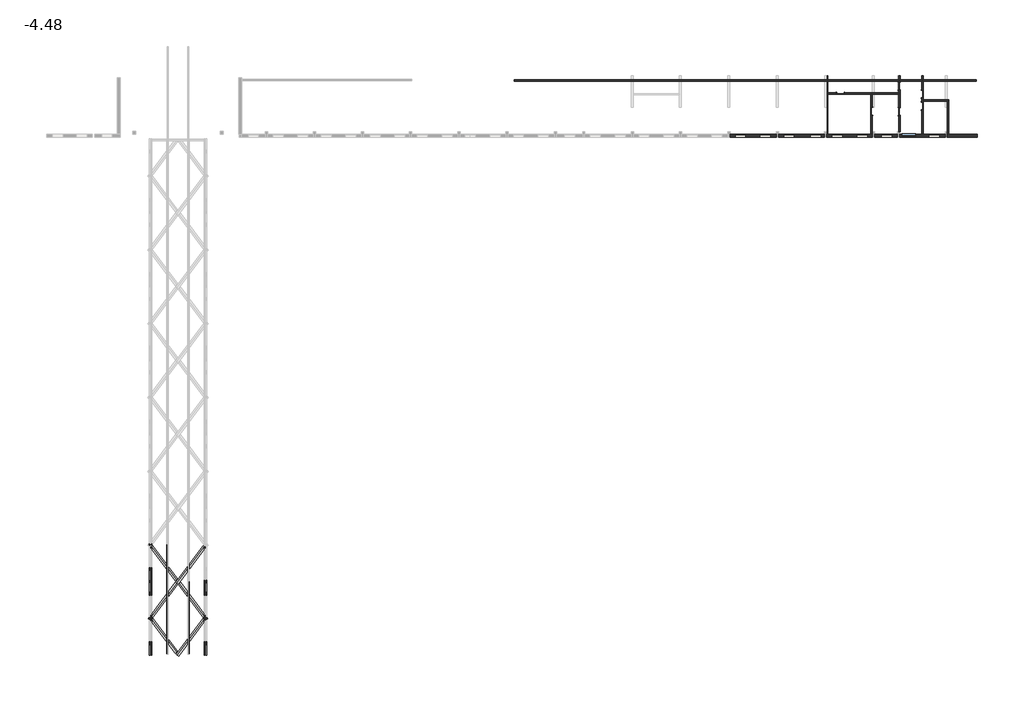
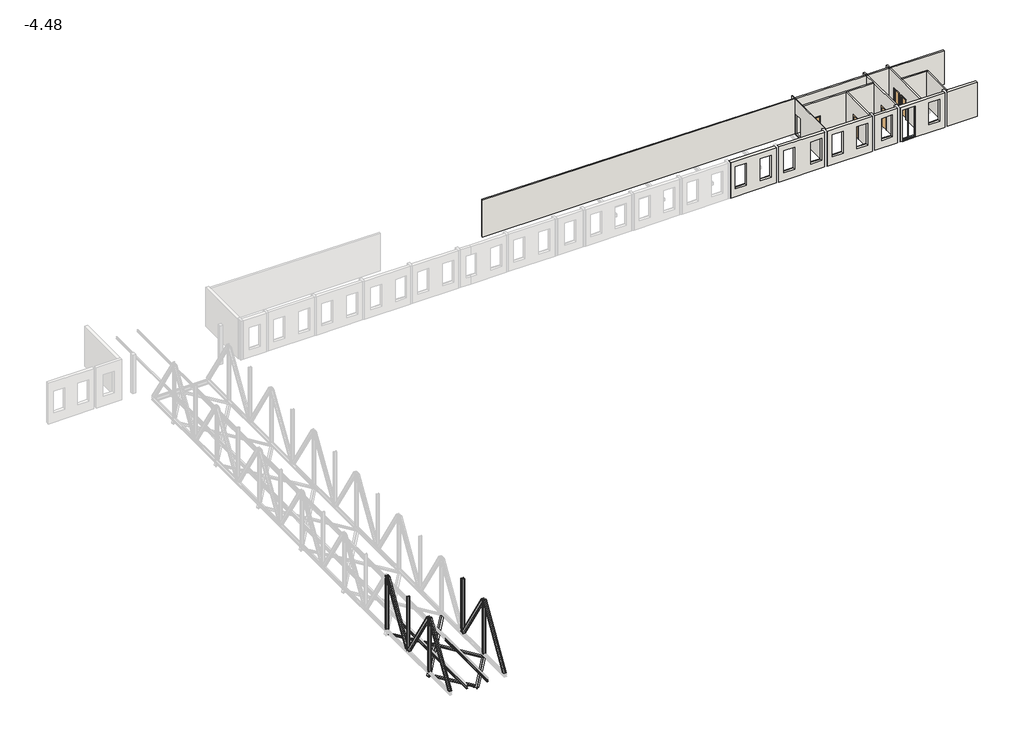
# One storey, part 2 of 4: 21 beams, 14 walls, 6 doors, 1 window.
"""IFC4 building model written with IfcOpenShell, lengths in millimetres."""

from ifc_helpers import new_model, si_unit, frame, origin, place, context, project, spatial, polyline, outline, extrude, faceted_brep, transform, mapped, element, save
from components import beam_890411bb, beam_e918075c, beam_3d815347, beam_cf659598, beam_69747abd, beam_eb555228, beam_2c250x37_7c4ae191, beam_2c250x37_2629953b, beam_2c250x37_f4fb58e9, beam_2c250x37_d0_5cd3afa0, beam_2c250x37_d0_b1fd0093, beam_2c250x37_d0_898f56b5, door_8eef53e9, door_f7163fd2, finestra_doppia_140_x_330_cm_8a0baf34

model = new_model("IFC4")

# Units and contexts
model_context = context("Model", 3, world=origin())
ifc_project = project(units=[si_unit("LENGTHUNIT", "METRE", prefix="MILLI")], contexts=[model_context])

# Site, building, storey
site = spatial("IfcSite", under=ifc_project)
building = spatial("IfcBuilding", under=site)
storey = spatial("IfcBuildingStorey", under=building, Name="-4.48", Elevation=-4480.0)

# Beams
placement = place(None, origin())
beam_shape = beam_890411bb(model_context)
element("IfcBeam", 1, ObjectType="Profilati doppi a L : DCED150x12", at=placement, inside=storey, context=model_context, shape_type="MappedRepresentation", body=[
    mapped(beam_shape, transform((6658.1828245, -26272.78495, -5576.4), x_axis=(-0.6018150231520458, 0.7986355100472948, 0.0), y_axis=(-0.7986355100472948, -0.6018150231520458, 0.0), z_axis=(0.0, 0.0, 1.0))),
])
beam_2_shape = beam_e918075c(model_context)
element("IfcBeam", 2, ObjectType="Profilati doppi a L : DCED150x12", at=placement, inside=storey, context=model_context, shape_type="MappedRepresentation", body=[
    mapped(beam_2_shape, transform((9426.531931, -26272.78495, -5576.4), x_axis=(0.6018150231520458, 0.7986355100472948, 0.0), y_axis=(-0.7986355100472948, 0.6018150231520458, 0.0), z_axis=(0.0, 0.0, 1.0))),
])
beam_3_shape = beam_3d815347(model_context)
element("IfcBeam", 3, ObjectType="Profilati doppi a L : DCED150x12", at=placement, inside=storey, context=model_context, shape_type="MappedRepresentation", body=[
    mapped(beam_3_shape, transform((6661.2738573, -22628.7990122, -5576.4), x_axis=(-0.6018150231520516, -0.7986355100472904, 0.0), y_axis=(0.7986355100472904, -0.6018150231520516, 0.0), z_axis=(0.0, 0.0, 1.0))),
])
beam_4_shape = beam_cf659598(model_context)
element("IfcBeam", 4, ObjectType="Profilati doppi a L : DCED150x12", at=placement, inside=storey, context=model_context, shape_type="MappedRepresentation", body=[
    mapped(beam_4_shape, transform((9429.6229638, -22628.7990122, -5576.4), x_axis=(0.6018150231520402, -0.7986355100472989, 0.0), y_axis=(0.7986355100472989, 0.6018150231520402, 0.0), z_axis=(0.0, 0.0, 1.0))),
])
beam_5_shape = beam_69747abd(model_context)
element("IfcBeam", 5, ObjectType="Profilati doppi a L : DCED150x12", at=placement, inside=storey, context=model_context, shape_type="MappedRepresentation", body=[
    mapped(beam_5_shape, transform((6661.2738573, -18981.9228055, -5576.4), x_axis=(-0.6018150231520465, 0.7986355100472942, 0.0), y_axis=(-0.7986355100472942, -0.6018150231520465, 0.0), z_axis=(0.0, 0.0, 1.0))),
])
beam_6_shape = beam_eb555228(model_context)
element("IfcBeam", 6, ObjectType="Profilati doppi a L : DCED150x12", at=placement, inside=storey, context=model_context, shape_type="MappedRepresentation", body=[
    mapped(beam_6_shape, transform((9429.6229638, -18981.9228055, -5576.4), x_axis=(0.6018150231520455, 0.7986355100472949, 0.0), y_axis=(-0.7986355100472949, 0.6018150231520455, 0.0), z_axis=(0.0, 0.0, 1.0))),
])
beam_2c250x37_shape = beam_2c250x37_7c4ae191(model_context)
element("IfcBeam", 7, ObjectType="Profilato a doppia C : 2C250X37", at=placement, inside=storey, context=model_context, shape_type="MappedRepresentation", body=[
    mapped(beam_2c250x37_shape, transform((10792.3573777, -20805.567008, -2273.1164855), x_axis=(0.0, 0.0, 1.0), y_axis=(0.0, 1.0, 0.0), z_axis=(-1.0, 0.0, 0.0))),
])
beam_2c250x37_2_shape = beam_2c250x37_2629953b(model_context)
element("IfcBeam", 8, ObjectType="Profilato a doppia C : 2C250X37", at=placement, inside=storey, context=model_context, shape_type="MappedRepresentation", body=[
    mapped(beam_2c250x37_2_shape, transform((5292.3573777, -18948.4241508, -2273.1164855), x_axis=(0.0, -0.5263546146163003, -0.8502651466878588), y_axis=(-1.0, 0.0, 0.0), z_axis=(0.0, 0.8502651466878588, -0.5263546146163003))),
])
element("IfcBeam", 9, ObjectType="Profilato a doppia C : 2C250X37", at=placement, inside=storey, context=model_context, shape_type="MappedRepresentation", body=[
    mapped(beam_2c250x37_2_shape, transform((5292.3573777, -22662.7098651, -2273.1164855), x_axis=(0.0, -0.5263546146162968, 0.8502651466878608), y_axis=(-1.0, 0.0, 0.0), z_axis=(0.0, -0.8502651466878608, -0.5263546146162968))),
])
element("IfcBeam", 10, ObjectType="Profilato a doppia C : 2C250X37", at=placement, inside=storey, context=model_context, shape_type="MappedRepresentation", body=[
    mapped(beam_2c250x37_2_shape, transform((10792.3573777, -22662.7098651, -2273.1164855), x_axis=(0.0, -0.5263546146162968, 0.8502651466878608), y_axis=(-1.0, 0.0, 0.0), z_axis=(0.0, -0.8502651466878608, -0.5263546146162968))),
])
beam_2c250x37_3_shape = beam_2c250x37_f4fb58e9(model_context)
element("IfcBeam", 11, ObjectType="Profilato a doppia C : 2C250X37", at=placement, inside=storey, context=model_context, shape_type="MappedRepresentation", body=[
    mapped(beam_2c250x37_3_shape, transform((5292.3573777, -26376.9955794, -2273.1164855), x_axis=(0.0, -0.5263546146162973, -0.8502651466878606), y_axis=(-1.0, 0.0, 0.0), z_axis=(0.0, 0.8502651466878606, -0.5263546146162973))),
])
element("IfcBeam", 12, ObjectType="Profilato a doppia C : 2C250X37", at=placement, inside=storey, context=model_context, shape_type="MappedRepresentation", body=[
    mapped(beam_2c250x37_3_shape, transform((10792.3573777, -26376.9955794, -2273.1164855), x_axis=(0.0, -0.5263546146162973, -0.8502651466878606), y_axis=(-1.0, 0.0, 0.0), z_axis=(0.0, 0.8502651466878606, -0.5263546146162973))),
])
beam_2c250x37_d0_shape = beam_2c250x37_d0_5cd3afa0(model_context)
element("IfcBeam", 13, ObjectType="Profilato a doppia C : 2C250X37 d0", at=placement, inside=storey, context=model_context, shape_type="MappedRepresentation", body=[
    mapped(beam_2c250x37_d0_shape, transform((5292.3573777, -17091.2812937, -2273.1164855), x_axis=(0.0, 0.0, 1.0), y_axis=(0.0, 1.0, 0.0), z_axis=(-1.0, 0.0, 0.0))),
])
element("IfcBeam", 14, ObjectType="Profilato a doppia C : 2C250X37 d0", at=placement, inside=storey, context=model_context, shape_type="MappedRepresentation", body=[
    mapped(beam_2c250x37_d0_shape, transform((5292.3573777, -20805.567008, -2273.1164855), x_axis=(0.0, 0.0, 1.0), y_axis=(0.0, 1.0, 0.0), z_axis=(-1.0, 0.0, 0.0))),
])
element("IfcBeam", 15, ObjectType="Profilato a doppia C : 2C250X37 d0", at=placement, inside=storey, context=model_context, shape_type="MappedRepresentation", body=[
    mapped(beam_2c250x37_d0_shape, transform((5292.3573777, -24519.8527222, -2273.1164855), x_axis=(0.0, 0.0, 1.0), y_axis=(0.0, 1.0, 0.0), z_axis=(-1.0, 0.0, 0.0))),
])
element("IfcBeam", 16, ObjectType="Profilato a doppia C : 2C250X37 d0", at=placement, inside=storey, context=model_context, shape_type="MappedRepresentation", body=[
    mapped(beam_2c250x37_d0_shape, transform((10792.3573777, -24519.8527222, -2273.1164855), x_axis=(0.0, 0.0, 1.0), y_axis=(0.0, 1.0, 0.0), z_axis=(-1.0, 0.0, 0.0))),
])
beam_2c250x37_d0_2_shape = beam_2c250x37_d0_b1fd0093(model_context)
element("IfcBeam", 17, ObjectType="Profilato a doppia C : 2C250X37 d0", at=placement, inside=storey, context=model_context, shape_type="MappedRepresentation", body=[
    mapped(beam_2c250x37_d0_2_shape, transform((6992.3573777, -18881.2479608, -5280.1995524), x_axis=(0.0, 1.0, 0.0), y_axis=(-1.0, 0.0, 0.0), z_axis=(0.0, 0.0, 1.0))),
])
element("IfcBeam", 18, ObjectType="Profilato a doppia C : 2C250X37 d0", at=placement, inside=storey, context=model_context, shape_type="MappedRepresentation", body=[
    mapped(beam_2c250x37_d0_2_shape, transform((6992.3573777, -22595.5336751, -5280.1995524), x_axis=(0.0, 1.0, 0.0), y_axis=(-1.0, 0.0, 0.0), z_axis=(0.0, 0.0, 1.0))),
])
element("IfcBeam", 19, ObjectType="Profilato a doppia C : 2C250X37 d0", at=placement, inside=storey, context=model_context, shape_type="MappedRepresentation", body=[
    mapped(beam_2c250x37_d0_2_shape, transform((9092.3573777, -22595.5336751, -5280.1995524), x_axis=(0.0, 1.0, 0.0), y_axis=(-1.0, 0.0, 0.0), z_axis=(0.0, 0.0, 1.0))),
])
beam_2c250x37_d0_3_shape = beam_2c250x37_d0_898f56b5(model_context)
element("IfcBeam", 20, ObjectType="Profilato a doppia C : 2C250X37 d0", at=placement, inside=storey, context=model_context, shape_type="MappedRepresentation", body=[
    mapped(beam_2c250x37_d0_3_shape, transform((6992.3573777, -26310.5336751, -5280.1995524), x_axis=(0.0, 1.0, 0.0), y_axis=(-1.0, 0.0, 0.0), z_axis=(0.0, 0.0, 1.0))),
])
element("IfcBeam", 21, ObjectType="Profilato a doppia C : 2C250X37 d0", at=placement, inside=storey, context=model_context, shape_type="MappedRepresentation", body=[
    mapped(beam_2c250x37_d0_3_shape, transform((9092.3573777, -26310.5336751, -5280.1995524), x_axis=(0.0, 1.0, 0.0), y_axis=(-1.0, 0.0, 0.0), z_axis=(0.0, 0.0, 1.0))),
])

# Doors
door_shape = door_8eef53e9(model_context)
element("IfcDoor", 22, ObjectType="Single-Flush : 30\" x 80\"", at=placement, inside=storey, context=model_context, shape_type="MappedRepresentation", body=[
    mapped(door_shape, transform((74707.3573777, 28333.3920265, -4480.0), x_axis=(-1.0, 0.0, 0.0), y_axis=(0.0, -1.0, 0.0), z_axis=(0.0, 0.0, 1.0))),
])
element("IfcDoor", 23, ObjectType="Single-Flush : 30\" x 80\"", at=placement, inside=storey, context=model_context, shape_type="MappedRepresentation", body=[
    mapped(door_shape, transform((77857.3573777, 26533.3920265, -4480.0), x_axis=(0.0, 1.0, 0.0), y_axis=(-1.0, 0.0, 0.0), z_axis=(0.0, 0.0, 1.0))),
])
element("IfcDoor", 24, ObjectType="Single-Flush : 30\" x 80\"", at=placement, inside=storey, context=model_context, shape_type="MappedRepresentation", body=[
    mapped(door_shape, transform((80657.3573777, 26493.3920265, -4480.0), x_axis=(0.0, 1.0, 0.0), y_axis=(-1.0, 0.0, 0.0), z_axis=(0.0, 0.0, 1.0))),
])
element("IfcDoor", 25, ObjectType="Single-Flush : 30\" x 80\"", at=placement, inside=storey, context=model_context, shape_type="MappedRepresentation", body=[
    mapped(door_shape, transform((80657.3573777, 29063.3920265, -4480.0), x_axis=(0.0, 1.0, 0.0), y_axis=(-1.0, 0.0, 0.0), z_axis=(0.0, 0.0, 1.0))),
])
door_2_shape = door_f7163fd2(model_context)
element("IfcDoor", 26, ObjectType="Single-Flush : 30\" x 80\"", at=placement, inside=storey, context=model_context, shape_type="MappedRepresentation", body=[
    mapped(door_2_shape, transform((82957.3573777, 27063.3920265, -4480.0), x_axis=(0.0, 1.0, 0.0), y_axis=(-1.0, 0.0, 0.0), z_axis=(0.0, 0.0, 1.0))),
])
element("IfcDoor", 27, ObjectType="Single-Flush : 30\" x 80\"", at=placement, inside=storey, context=model_context, shape_type="MappedRepresentation", body=[
    mapped(door_2_shape, transform((82957.3573777, 28263.3920265, -4480.0), x_axis=(0.0, 1.0, 0.0), y_axis=(-1.0, 0.0, 0.0), z_axis=(0.0, 0.0, 1.0))),
])

# Walls
element("IfcWall", 28, ObjectType="muro 15cm", at=placement, inside=storey, context=model_context, shape_type="Brep", body=[
    faceted_brep([(73447.3573777, 28258.3920265, -760.5317001), (73447.3573777, 28258.3920265, -4480.0), (74326.3573777, 28258.3920265, -4480.0), (74326.3573777, 28258.3920265, -2448.0), (75088.3573777, 28258.3920265, -2448.0), (75088.3573777, 28258.3920265, -4480.0), (77782.3573777, 28258.3920265, -4480.0), (77932.3573777, 28258.3920265, -4480.0), (80582.3573777, 28258.3920265, -4480.0), (80582.3573777, 28258.3920265, -812.3946695), (77932.3573777, 28258.3920265, -793.1323193), (77782.3573777, 28258.3920265, -792.0419976), (73447.3573777, 28408.3920265, -4480.0), (73447.3573777, 28408.3920265, -760.5317001), (80582.3573777, 28408.3920265, -812.3946695), (80582.3573777, 28408.3920265, -4480.0), (75088.3573777, 28408.3920265, -4480.0), (75088.3573777, 28408.3920265, -2448.0), (74326.3573777, 28408.3920265, -2448.0), (74326.3573777, 28408.3920265, -4480.0)], [[[0, 1, 2, 3, 4, 5, 6, 7, 8, 9, 10, 11]], [[12, 13, 14, 15, 16, 17, 18, 19]], [[1, 12, 19, 2]], [[15, 8, 7, 6, 5, 16]], [[1, 0, 13, 12]], [[18, 3, 2, 19]], [[3, 18, 17, 4]], [[4, 17, 16, 5]], [[9, 8, 15, 14]], [[0, 11, 10, 9, 14, 13]]]),
])
element("IfcWall", 29, ObjectType="muro 15cm", at=placement, inside=storey, context=model_context, shape_type="Brep", body=[
    faceted_brep([(77782.3573777, 28258.3920265, -792.0419976), (77782.3573777, 28258.3920265, -4480.0), (77782.3573777, 26914.3920265, -4480.0), (77782.3573777, 26914.3920265, -2448.0), (77782.3573777, 26152.3920265, -2448.0), (77782.3573777, 26152.3920265, -4480.0), (77782.3573777, 24213.3920265, -4480.0), (77782.3573777, 24213.3920265, -792.0419976), (77932.3573777, 28258.3920265, -4480.0), (77932.3573777, 28258.3920265, -793.1323193), (77932.3573777, 24213.3920265, -793.1323193), (77932.3573777, 24213.3920265, -4480.0), (77932.3573777, 26152.3920265, -4480.0), (77932.3573777, 26152.3920265, -2448.0), (77932.3573777, 26914.3920265, -2448.0), (77932.3573777, 26914.3920265, -4480.0)], [[[0, 1, 2, 3, 4, 5, 6, 7]], [[8, 9, 10, 11, 12, 13, 14, 15]], [[1, 8, 15, 2]], [[11, 6, 5, 12]], [[1, 0, 9, 8]], [[14, 3, 2, 15]], [[3, 14, 13, 4]], [[4, 13, 12, 5]], [[0, 7, 10, 9]], [[7, 6, 11, 10]]]),
])
element("IfcWall", 30, ObjectType="muro 15cm", at=placement, inside=storey, context=model_context, shape_type="Brep", body=[
    faceted_brep([(80582.3573777, 24463.3920265, -4480.0), (80582.3573777, 24463.3920265, -812.3946695), (80582.3573777, 28258.3920265, -812.3946695), (80582.3573777, 28408.3920265, -812.3946695), (80582.3573777, 29578.3947423, -812.3946695), (80582.3573777, 29578.3947423, -4480.0), (80582.3573777, 29444.3920265, -4480.0), (80582.3573777, 29444.3920265, -2448.0), (80582.3573777, 28682.3920265, -2448.0), (80582.3573777, 28682.3920265, -4480.0), (80582.3573777, 28408.3920265, -4480.0), (80582.3573777, 28258.3920265, -4480.0), (80582.3573777, 26874.3920265, -4480.0), (80582.3573777, 26874.3920265, -2448.0), (80582.3573777, 26112.3920265, -2448.0), (80582.3573777, 26112.3920265, -4480.0), (80732.3573777, 24463.3920265, -813.4849913), (80732.3573777, 24463.3920265, -4480.0), (80732.3573777, 26112.3920265, -4480.0), (80732.3573777, 26112.3920265, -2448.0), (80732.3573777, 26874.3920265, -2448.0), (80732.3573777, 26874.3920265, -4480.0), (80732.3573777, 28682.3920265, -4480.0), (80732.3573777, 28682.3920265, -2448.0), (80732.3573777, 29444.3920265, -2448.0), (80732.3573777, 29444.3920265, -4480.0), (80732.3573777, 29578.3947423, -4480.0), (80732.3573777, 29578.3947423, -813.4849913)], [[[0, 1, 2, 3, 4, 5, 6, 7, 8, 9, 10, 11, 12, 13, 14, 15]], [[16, 17, 18, 19, 20, 21, 22, 23, 24, 25, 26, 27]], [[17, 0, 15, 18]], [[21, 12, 11, 10, 9, 22]], [[25, 6, 5, 26]], [[1, 0, 17, 16]], [[20, 13, 12, 21]], [[13, 20, 19, 14]], [[14, 19, 18, 15]], [[24, 7, 6, 25]], [[7, 24, 23, 8]], [[8, 23, 22, 9]], [[1, 16, 27, 4, 3, 2]], [[5, 4, 27, 26]]]),
    faceted_brep([(80582.3573777, 30121.9947423, -812.3946695), (80582.3573777, 30121.9947423, -4480.0), (80582.3573777, 29728.3947423, -4480.0), (80582.3573777, 29728.3947423, -812.3946695), (80732.3573777, 30121.9947423, -4480.0), (80732.3573777, 30121.9947423, -813.4849913), (80732.3573777, 29728.3947423, -813.4849913), (80732.3573777, 29728.3947423, -4480.0)], [[[0, 1, 2, 3]], [[4, 5, 6, 7]], [[1, 4, 7, 2]], [[4, 1, 0, 5]], [[5, 0, 3, 6]], [[3, 2, 7, 6]]]),
])
element("IfcWall", 31, ObjectType="muro 15cm", at=placement, inside=storey, context=model_context, shape_type="Brep", body=[
    faceted_brep([(82882.3573777, 27444.3920265, -4480.0), (82882.3573777, 27444.3920265, -2448.0), (82882.3573777, 26682.3920265, -2448.0), (82882.3573777, 26682.3920265, -4480.0), (82882.3573777, 24213.3920265, -4480.0), (82882.3573777, 24213.3920265, -829.1129358), (82882.3573777, 29578.3947423, -829.1129358), (82882.3573777, 29578.3947423, -4480.0), (82882.3573777, 28644.3920265, -4480.0), (82882.3573777, 28644.3920265, -2448.0), (82882.3573777, 27882.3920265, -2448.0), (82882.3573777, 27882.3920265, -4480.0), (83032.3573777, 27444.3920265, -2448.0), (83032.3573777, 27444.3920265, -4480.0), (83032.3573777, 27558.3920265, -4480.0), (83032.3573777, 27708.3920265, -4480.0), (83032.3573777, 27882.3920265, -4480.0), (83032.3573777, 27882.3920265, -2448.0), (83032.3573777, 28644.3920265, -2448.0), (83032.3573777, 28644.3920265, -4480.0), (83032.3573777, 29578.3947423, -4480.0), (83032.3573777, 29578.3947423, -830.2032575), (83032.3573777, 27708.3920265, -830.2032575), (83032.3573777, 27558.3920265, -830.2032575), (83032.3573777, 24213.3920265, -830.2032575), (83032.3573777, 24213.3920265, -4480.0), (83032.3573777, 26682.3920265, -4480.0), (83032.3573777, 26682.3920265, -2448.0)], [[[0, 1, 2, 3, 4, 5, 6, 7, 8, 9, 10, 11]], [[12, 13, 14, 15, 16, 17, 18, 19, 20, 21, 22, 23, 24, 25, 26, 27]], [[3, 26, 25, 4]], [[13, 0, 11, 16, 15, 14]], [[19, 8, 7, 20]], [[1, 0, 13, 12]], [[2, 1, 12, 27]], [[3, 2, 27, 26]], [[9, 8, 19, 18]], [[10, 9, 18, 17]], [[11, 10, 17, 16]], [[5, 4, 25, 24]], [[5, 24, 23, 22, 21, 6]], [[7, 6, 21, 20]]]),
    faceted_brep([(82882.3573777, 30121.9947423, -829.1129358), (82882.3573777, 30121.9947423, -4480.0), (82882.3573777, 29728.3947423, -4480.0), (82882.3573777, 29728.3947423, -829.1129358), (83032.3573777, 30121.9947423, -4480.0), (83032.3573777, 30121.9947423, -830.2032575), (83032.3573777, 29728.3947423, -830.2032575), (83032.3573777, 29728.3947423, -4480.0)], [[[0, 1, 2, 3]], [[4, 5, 6, 7]], [[1, 4, 7, 2]], [[4, 1, 0, 5]], [[5, 0, 3, 6]], [[3, 2, 7, 6]]]),
])
element("IfcWall", 32, ObjectType="muro 15cm", at=placement, inside=storey, context=model_context, shape_type="Brep", body=[
    faceted_brep([(83032.3573777, 27558.3920265, -4480.0), (85482.3573777, 27558.3920265, -4480.0), (85632.3573777, 27558.3920265, -4480.0), (85632.3573777, 27558.3920265, -849.1021672), (85482.3573777, 27558.3920265, -848.0118455), (83032.3573777, 27558.3920265, -830.2032575), (83032.3573777, 27708.3920265, -4480.0), (83032.3573777, 27708.3920265, -830.2032575), (85632.3573777, 27708.3920265, -849.1021672), (85632.3573777, 27708.3920265, -4480.0)], [[[0, 1, 2, 3, 4, 5]], [[6, 7, 8, 9]], [[2, 1, 0, 6, 9]], [[0, 5, 7, 6]], [[3, 2, 9, 8]], [[5, 4, 3, 8, 7]]]),
])
element("IfcWall", 33, ObjectType="muro 15cm", at=placement, inside=storey, context=model_context, shape_type="SweptSolid", body=[
    extrude(outline(polyline([(-848.0118455, 85482.3573777), (-4480.0, 85482.3573777), (-4480.0, 85632.3573777), (-849.1021672, 85632.3573777), (-848.0118455, 85482.3573777)])), frame((0.0, 24213.3920265, 0.0), z_axis=(0.0, 1.0, 0.0), x_axis=(0.0, 0.0, 1.0)), (0.0, 0.0, 1.0), 3345.0),
])
element("IfcWall", 34, ObjectType="muro 15cm", at=placement, inside=storey, context=model_context, shape_type="SweptSolid", body=[
    extrude(outline(polyline([(-530.946217, 41862.3471135), (-4480.0, 41862.3471135), (-4480.0, 73367.3573777), (-759.9501952, 73367.3573777), (-530.946217, 41862.3471135)])), frame((0.0, 29578.3947423, 0.0), z_axis=(0.0, 1.0, 0.0), x_axis=(0.0, 0.0, 1.0)), (0.0, 0.0, 1.0), 150.0),
    extrude(outline(polyline([(-4480.0, 88407.3573777), (-869.2731189, 88407.3573777), (-830.2032575, 83032.3573777), (-4480.0, 83032.3573777), (-4480.0, 88407.3573777)])), frame((0.0, 29578.3947423, 0.0), z_axis=(0.0, 1.0, 0.0), x_axis=(0.0, 0.0, 1.0)), (0.0, 0.0, 1.0), 150.0),
    extrude(outline(polyline([(-760.5317001, 73447.3573777), (-4480.0, 73447.3573777), (-4480.0, 80582.3573777), (-812.3946695, 80582.3573777), (-760.5317001, 73447.3573777)])), frame((0.0, 29578.3947423, 0.0), z_axis=(0.0, 1.0, 0.0), x_axis=(0.0, 0.0, 1.0)), (0.0, 0.0, 1.0), 150.0),
    extrude(outline(polyline([(-813.4849913, 80732.3573777), (-4480.0, 80732.3573777), (-4480.0, 82882.3573777), (-829.1129358, 82882.3573777), (-813.4849913, 80732.3573777)])), frame((0.0, 29578.3947423, 0.0), z_axis=(0.0, 1.0, 0.0), x_axis=(0.0, 0.0, 1.0)), (0.0, 0.0, 1.0), 150.0),
])
element("IfcWall", 35, ObjectType="muro 30cm", at=placement, inside=storey, context=model_context, shape_type="Brep", body=[
    faceted_brep([(63607.3573777, 23913.3920265, -4480.0), (68237.3573777, 23913.3920265, -4480.0), (68237.3573777, 23913.3920265, -722.6611926), (63607.3573777, 23913.3920265, -689.0065958), (67697.3573777, 23913.3920265, -1330.0), (67697.3573777, 23913.3920265, -3680.0), (66597.3573777, 23913.3920265, -3680.0), (66597.3573777, 23913.3920265, -1330.0), (65207.3573777, 23913.3920265, -1330.0), (65207.3573777, 23913.3920265, -3680.0), (64107.3573777, 23913.3920265, -3680.0), (64107.3573777, 23913.3920265, -1330.0), (68237.3573777, 24213.3920265, -4480.0), (63607.3573777, 24213.3920265, -4480.0), (63607.3573777, 24213.3920265, -997.0298835), (63607.3573777, 24213.3920265, -937.0298835), (63607.3573777, 24213.3920265, -689.0065958), (68237.3573777, 24213.3920265, -722.6611926), (68237.3573777, 24213.3920265, -973.7286634), (68237.3573777, 24213.3920265, -1033.7286634), (66552.3573777, 24213.3920265, -1285.0), (66552.3573777, 24213.3920265, -3675.0), (67742.3573777, 24213.3920265, -3675.0), (67742.3573777, 24213.3920265, -1285.0), (64062.3573777, 24213.3920265, -1285.0), (64062.3573777, 24213.3920265, -3675.0), (65252.3573777, 24213.3920265, -3675.0), (65252.3573777, 24213.3920265, -1285.0), (66597.3573777, 24153.3920265, -3680.0), (67697.3573777, 24153.3920265, -3680.0), (67697.3573777, 24153.3920265, -3675.0), (66597.3573777, 24153.3920265, -3675.0), (67697.3573777, 24153.3920265, -1330.0), (66597.3573777, 24153.3920265, -1330.0), (66552.3573777, 24153.3920265, -3675.0), (66552.3573777, 24153.3920265, -1285.0), (67742.3573777, 24153.3920265, -1285.0), (67742.3573777, 24153.3920265, -3675.0), (64107.3573777, 24153.3920265, -3680.0), (65207.3573777, 24153.3920265, -3680.0), (65207.3573777, 24153.3920265, -3675.0), (64107.3573777, 24153.3920265, -3675.0), (65207.3573777, 24153.3920265, -1330.0), (64107.3573777, 24153.3920265, -1330.0), (64062.3573777, 24153.3920265, -3675.0), (64062.3573777, 24153.3920265, -1285.0), (65252.3573777, 24153.3920265, -1285.0), (65252.3573777, 24153.3920265, -3675.0)], [[[0, 1, 2, 3], [4, 5, 6, 7], [8, 9, 10, 11]], [[12, 13, 14, 15, 16, 17, 18, 19], [20, 21, 22, 23], [24, 25, 26, 27]], [[1, 0, 13, 12]], [[2, 1, 12, 19, 18, 17]], [[0, 3, 16, 15, 14, 13]], [[28, 29, 30, 31]], [[30, 29, 5, 4, 32]], [[29, 28, 6, 5]], [[28, 31, 33, 7, 6]], [[32, 4, 7, 33]], [[30, 32, 33, 31, 34, 35, 36, 37]], [[35, 34, 21, 20]], [[31, 30, 37, 22, 21, 34]], [[37, 36, 23, 22]], [[36, 35, 20, 23]], [[16, 3, 2, 17]], [[38, 39, 40, 41]], [[40, 39, 9, 8, 42]], [[39, 38, 10, 9]], [[38, 41, 43, 11, 10]], [[42, 8, 11, 43]], [[40, 42, 43, 41, 44, 45, 46, 47]], [[45, 44, 25, 24]], [[41, 40, 47, 26, 25, 44]], [[47, 46, 27, 26]], [[46, 45, 24, 27]]]),
])
element("IfcWall", 36, ObjectType="muro 30cm", at=placement, inside=storey, context=model_context, shape_type="Brep", body=[
    faceted_brep([(73357.3573777, 23913.3920265, -4480.0), (77932.3573777, 23913.3920265, -4480.0), (77932.3573777, 23913.3920265, -793.1323193), (73357.3573777, 23913.3920265, -759.8775071), (77447.0949117, 23913.3920265, -1330.0), (77447.0949117, 23913.3920265, -3680.0), (76347.0949117, 23913.3920265, -3680.0), (76347.0949117, 23913.3920265, -1330.0), (74957.0949117, 23913.3920265, -1330.0), (74957.0949117, 23913.3920265, -3680.0), (73857.0949117, 23913.3920265, -3680.0), (73857.0949117, 23913.3920265, -1330.0), (77932.3573777, 24213.3920265, -4480.0), (77907.3573777, 24213.3920265, -4480.0), (73357.3573777, 24213.3920265, -4480.0), (73357.3573777, 24213.3920265, -1069.1792877), (73357.3573777, 24213.3920265, -1009.1792877), (73357.3573777, 24213.3920265, -759.8775071), (77907.3573777, 24213.3920265, -792.950599), (77932.3573777, 24213.3920265, -793.1323193), (77932.3573777, 24213.3920265, -1046.0726942), (77932.3573777, 24213.3920265, -1106.0726942), (76302.0949117, 24213.3920265, -1285.0), (76302.0949117, 24213.3920265, -3675.0), (77492.0949117, 24213.3920265, -3675.0), (77492.0949117, 24213.3920265, -1285.0), (73812.0949117, 24213.3920265, -1285.0), (73812.0949117, 24213.3920265, -3675.0), (75002.0949117, 24213.3920265, -3675.0), (75002.0949117, 24213.3920265, -1285.0), (76347.0949117, 24153.3920265, -3680.0), (77447.0949117, 24153.3920265, -3680.0), (77447.0949117, 24153.3920265, -3675.0), (76347.0949117, 24153.3920265, -3675.0), (77447.0949117, 24153.3920265, -1330.0), (76347.0949117, 24153.3920265, -1330.0), (76302.0949117, 24153.3920265, -3675.0), (76302.0949117, 24153.3920265, -1285.0), (77492.0949117, 24153.3920265, -1285.0), (77492.0949117, 24153.3920265, -3675.0), (73857.0949117, 24153.3920265, -3680.0), (74957.0949117, 24153.3920265, -3680.0), (74957.0949117, 24153.3920265, -3675.0), (73857.0949117, 24153.3920265, -3675.0), (74957.0949117, 24153.3920265, -1330.0), (73857.0949117, 24153.3920265, -1330.0), (73812.0949117, 24153.3920265, -3675.0), (73812.0949117, 24153.3920265, -1285.0), (75002.0949117, 24153.3920265, -1285.0), (75002.0949117, 24153.3920265, -3675.0)], [[[0, 1, 2, 3], [4, 5, 6, 7], [8, 9, 10, 11]], [[12, 13, 14, 15, 16, 17, 18, 19, 20, 21], [22, 23, 24, 25], [26, 27, 28, 29]], [[1, 0, 14, 13, 12]], [[0, 3, 17, 16, 15, 14]], [[30, 31, 32, 33]], [[32, 31, 5, 4, 34]], [[31, 30, 6, 5]], [[30, 33, 35, 7, 6]], [[34, 4, 7, 35]], [[32, 34, 35, 33, 36, 37, 38, 39]], [[37, 36, 23, 22]], [[33, 32, 39, 24, 23, 36]], [[39, 38, 25, 24]], [[38, 37, 22, 25]], [[3, 2, 19, 18, 17]], [[40, 41, 42, 43]], [[42, 41, 9, 8, 44]], [[41, 40, 10, 9]], [[40, 43, 45, 11, 10]], [[44, 8, 11, 45]], [[42, 44, 45, 43, 46, 47, 48, 49]], [[47, 46, 27, 26]], [[43, 42, 49, 28, 27, 46]], [[49, 48, 29, 28]], [[48, 47, 26, 29]], [[2, 1, 12, 21, 20, 19]]]),
])
element("IfcWall", 37, ObjectType="muro 30cm", at=placement, inside=storey, context=model_context, shape_type="Brep", body=[
    faceted_brep([(85257.3573777, 23913.3920265, -4480.0), (85257.3573777, 23913.3920265, -846.3763629), (80707.3573777, 23913.3920265, -813.303271), (80707.3573777, 23913.3920265, -4480.0), (80907.3573777, 23913.3920265, -4480.0), (80907.3573777, 23913.3920265, -1180.0), (82307.3573777, 23913.3920265, -1180.0), (82307.3573777, 23913.3920265, -4480.0), (84707.3573777, 23913.3920265, -1330.0), (84707.3573777, 23913.3920265, -3680.0), (83607.3573777, 23913.3920265, -3680.0), (83607.3573777, 23913.3920265, -1330.0), (85257.3573777, 24213.3920265, -846.3763629), (85257.3573777, 24213.3920265, -1100.7532333), (85257.3573777, 24213.3920265, -1160.7532333), (85257.3573777, 24213.3920265, -4480.0), (82307.3573777, 24213.3920265, -4480.0), (82307.3573777, 24213.3920265, -1180.0), (80907.3573777, 24213.3920265, -1180.0), (80907.3573777, 24213.3920265, -4480.0), (80707.3573777, 24213.3920265, -4480.0), (80707.3573777, 24213.3920265, -1124.0614301), (80707.3573777, 24213.3920265, -1064.0614301), (80707.3573777, 24213.3920265, -813.303271), (83562.3573777, 24213.3920265, -1285.0), (83562.3573777, 24213.3920265, -3675.0), (84752.3573777, 24213.3920265, -3675.0), (84752.3573777, 24213.3920265, -1285.0), (83607.3573777, 24153.3920265, -3680.0), (84707.3573777, 24153.3920265, -3680.0), (84707.3573777, 24153.3920265, -3675.0), (83607.3573777, 24153.3920265, -3675.0), (84707.3573777, 24153.3920265, -1330.0), (83607.3573777, 24153.3920265, -1330.0), (83562.3573777, 24153.3920265, -3675.0), (83562.3573777, 24153.3920265, -1285.0), (84752.3573777, 24153.3920265, -1285.0), (84752.3573777, 24153.3920265, -3675.0)], [[[0, 1, 2, 3, 4, 5, 6, 7], [8, 9, 10, 11]], [[12, 13, 14, 15, 16, 17, 18, 19, 20, 21, 22, 23], [24, 25, 26, 27]], [[3, 20, 19, 4]], [[15, 0, 7, 16]], [[1, 0, 15, 14, 13, 12]], [[3, 2, 23, 22, 21, 20]], [[2, 1, 12, 23]], [[28, 29, 30, 31]], [[30, 29, 9, 8, 32]], [[29, 28, 10, 9]], [[28, 31, 33, 11, 10]], [[32, 8, 11, 33]], [[30, 32, 33, 31, 34, 35, 36, 37]], [[35, 34, 25, 24]], [[31, 30, 37, 26, 25, 34]], [[37, 36, 27, 26]], [[36, 35, 24, 27]], [[5, 4, 19, 18]], [[7, 6, 17, 16]], [[17, 6, 5, 18]]]),
])
element("IfcWall", 38, ObjectType="muro 30cm", at=placement, inside=storey, context=model_context, shape_type="Brep", body=[
    faceted_brep([(68487.3573777, 23913.3920265, -4480.0), (73107.3573777, 23913.3920265, -4480.0), (73107.3573777, 23913.3920265, -758.0603042), (68487.3573777, 23913.3920265, -724.4783955), (72788.6085114, 23913.3920265, -1330.0), (72788.6085114, 23913.3920265, -3680.0), (71688.6085114, 23913.3920265, -3680.0), (71688.6085114, 23913.3920265, -1330.0), (70087.3573777, 23913.3920265, -1330.0), (70087.3573777, 23913.3920265, -3680.0), (68987.3573777, 23913.3920265, -3680.0), (68987.3573777, 23913.3920265, -1330.0), (73107.3573777, 24213.3920265, -4480.0), (68487.3573777, 24213.3920265, -4480.0), (68487.3573777, 24213.3920265, -1033.3662887), (68487.3573777, 24213.3920265, -973.3662887), (68487.3573777, 24213.3920265, -724.4783955), (73107.3573777, 24213.3920265, -758.0603042), (73107.3573777, 24213.3920265, -1010.0642096), (73107.3573777, 24213.3920265, -1070.0642096), (71643.6085114, 24213.3920265, -1285.0), (71643.6085114, 24213.3920265, -3675.0), (72833.6085114, 24213.3920265, -3675.0), (72833.6085114, 24213.3920265, -1285.0), (68942.3573777, 24213.3920265, -1285.0), (68942.3573777, 24213.3920265, -3675.0), (70132.3573777, 24213.3920265, -3675.0), (70132.3573777, 24213.3920265, -1285.0), (71688.6085114, 24153.3920265, -3680.0), (72788.6085114, 24153.3920265, -3680.0), (72788.6085114, 24153.3920265, -3675.0), (71688.6085114, 24153.3920265, -3675.0), (72788.6085114, 24153.3920265, -1330.0), (71688.6085114, 24153.3920265, -1330.0), (71643.6085114, 24153.3920265, -3675.0), (71643.6085114, 24153.3920265, -1285.0), (72833.6085114, 24153.3920265, -1285.0), (72833.6085114, 24153.3920265, -3675.0), (68987.3573777, 24153.3920265, -3680.0), (70087.3573777, 24153.3920265, -3680.0), (70087.3573777, 24153.3920265, -3675.0), (68987.3573777, 24153.3920265, -3675.0), (70087.3573777, 24153.3920265, -1330.0), (68987.3573777, 24153.3920265, -1330.0), (68942.3573777, 24153.3920265, -3675.0), (68942.3573777, 24153.3920265, -1285.0), (70132.3573777, 24153.3920265, -1285.0), (70132.3573777, 24153.3920265, -3675.0)], [[[0, 1, 2, 3], [4, 5, 6, 7], [8, 9, 10, 11]], [[12, 13, 14, 15, 16, 17, 18, 19], [20, 21, 22, 23], [24, 25, 26, 27]], [[1, 0, 13, 12]], [[2, 1, 12, 19, 18, 17]], [[0, 3, 16, 15, 14, 13]], [[28, 29, 30, 31]], [[30, 29, 5, 4, 32]], [[29, 28, 6, 5]], [[28, 31, 33, 7, 6]], [[32, 4, 7, 33]], [[30, 32, 33, 31, 34, 35, 36, 37]], [[35, 34, 21, 20]], [[31, 30, 37, 22, 21, 34]], [[37, 36, 23, 22]], [[36, 35, 20, 23]], [[16, 3, 2, 17]], [[38, 39, 40, 41]], [[40, 39, 9, 8, 42]], [[39, 38, 10, 9]], [[38, 41, 43, 11, 10]], [[42, 8, 11, 43]], [[40, 42, 43, 41, 44, 45, 46, 47]], [[45, 44, 25, 24]], [[41, 40, 47, 26, 25, 44]], [[47, 46, 27, 26]], [[46, 45, 24, 27]]]),
])
element("IfcWall", 39, ObjectType="muro 30cm", at=placement, inside=storey, context=model_context, shape_type="Brep", body=[
    faceted_brep([(78157.3573777, 23913.3920265, -4480.0), (80457.3573777, 23913.3920265, -4480.0), (80457.3573777, 23913.3920265, -811.4860681), (78157.3573777, 23913.3920265, -794.7678019), (79937.0949117, 23913.3920265, -1330.0), (79937.0949117, 23913.3920265, -3680.0), (78837.0949117, 23913.3920265, -3680.0), (78837.0949117, 23913.3920265, -1330.0), (80457.3573777, 24213.3920265, -4480.0), (78157.3573777, 24213.3920265, -4480.0), (78157.3573777, 24213.3920265, -1088.4323283), (78157.3573777, 24213.3920265, -1028.4323283), (78157.3573777, 24213.3920265, -794.7678019), (80457.3573777, 24213.3920265, -811.4860681), (80457.3573777, 24213.3920265, -1064.7334076), (80457.3573777, 24213.3920265, -1124.7334076), (78792.0949117, 24213.3920265, -1285.0), (78792.0949117, 24213.3920265, -3675.0), (79982.0949117, 24213.3920265, -3675.0), (79982.0949117, 24213.3920265, -1285.0), (78837.0949117, 24153.3920265, -3680.0), (79937.0949117, 24153.3920265, -3680.0), (79937.0949117, 24153.3920265, -3675.0), (78837.0949117, 24153.3920265, -3675.0), (79937.0949117, 24153.3920265, -1330.0), (78837.0949117, 24153.3920265, -1330.0), (78792.0949117, 24153.3920265, -3675.0), (78792.0949117, 24153.3920265, -1285.0), (79982.0949117, 24153.3920265, -1285.0), (79982.0949117, 24153.3920265, -3675.0)], [[[0, 1, 2, 3], [4, 5, 6, 7]], [[8, 9, 10, 11, 12, 13, 14, 15], [16, 17, 18, 19]], [[1, 0, 9, 8]], [[2, 1, 8, 15, 14, 13]], [[0, 3, 12, 11, 10, 9]], [[3, 2, 13, 12]], [[20, 21, 22, 23]], [[22, 21, 5, 4, 24]], [[21, 20, 6, 5]], [[20, 23, 25, 7, 6]], [[24, 4, 7, 25]], [[22, 24, 25, 23, 26, 27, 28, 29]], [[27, 26, 17, 16]], [[23, 22, 29, 18, 17, 26]], [[29, 28, 19, 18]], [[28, 27, 16, 19]]]),
])
element("IfcWall", 40, ObjectType="muro 30cm", at=placement, inside=storey, context=model_context, shape_type="Brep", body=[
    faceted_brep([(85482.3573777, 23913.3920265, -4480.0), (88507.3573777, 23913.3920265, -4480.0), (88507.3573777, 23913.3920265, -870.0), (85482.3573777, 23913.3920265, -848.0118455), (85482.3573777, 24213.3920265, -4480.0), (85482.3573777, 24213.3920265, -848.0118455), (85507.3573777, 24213.3920265, -848.1935658), (88507.3573777, 24213.3920265, -870.0), (88507.3573777, 24213.3920265, -4480.0), (85507.3573777, 24213.3920265, -4480.0)], [[[0, 1, 2, 3]], [[4, 5, 6, 7, 8, 9]], [[1, 0, 4, 9, 8]], [[2, 1, 8, 7]], [[3, 2, 7, 6, 5]], [[0, 3, 5, 4]]]),
])
element("IfcWall", 41, ObjectType="muro 8cm", at=placement, inside=storey, context=model_context, shape_type="Brep", body=[
    faceted_brep([(73447.3573777, 24213.3920265, -760.5317001), (73447.3573777, 24213.3920265, -4480.0), (73447.3573777, 28258.3920265, -4480.0), (73447.3573777, 28408.3920265, -4480.0), (73447.3573777, 29578.3947423, -4480.0), (73447.3573777, 29578.3947423, -760.5317001), (73447.3573777, 28408.3920265, -760.5317001), (73447.3573777, 28258.3920265, -760.5317001), (73447.3573777, 29424.3920265, -2338.0), (73447.3573777, 29424.3920265, -4370.0), (73447.3573777, 28662.3920265, -4370.0), (73447.3573777, 28662.3920265, -2338.0), (73367.3573777, 24213.3920265, -4480.0), (73367.3573777, 24213.3920265, -759.9501952), (73367.3573777, 29578.3947423, -759.9501952), (73367.3573777, 29578.3947423, -4480.0), (73367.3573777, 29424.3920265, -4370.0), (73367.3573777, 29424.3920265, -2338.0), (73367.3573777, 28662.3920265, -2338.0), (73367.3573777, 28662.3920265, -4370.0)], [[[0, 1, 2, 3, 4, 5, 6, 7], [8, 9, 10, 11]], [[12, 13, 14, 15], [16, 17, 18, 19]], [[1, 12, 15, 4, 3, 2]], [[8, 17, 16, 9]], [[17, 8, 11, 18]], [[18, 11, 10, 19]], [[1, 0, 13, 12]], [[9, 16, 19, 10]], [[13, 0, 7, 6, 5, 14]], [[5, 4, 15, 14]]]),
    faceted_brep([(73447.3573777, 30121.9947423, -4480.0), (73447.3573777, 30121.9947423, -760.5317001), (73447.3573777, 29728.3947423, -760.5317001), (73447.3573777, 29728.3947423, -4480.0), (73367.3573777, 30121.9947423, -759.9501952), (73367.3573777, 30121.9947423, -4480.0), (73367.3573777, 29728.3947423, -4480.0), (73367.3573777, 29728.3947423, -759.9501952)], [[[0, 1, 2, 3]], [[4, 5, 6, 7]], [[5, 0, 3, 6]], [[0, 5, 4, 1]], [[1, 4, 7, 2]], [[3, 2, 7, 6]]]),
])

# Window
finestra_doppia_140_x_330_cm_shape = finestra_doppia_140_x_330_cm_8a0baf34(model_context)
element("IfcWindow", 42, ObjectType="Finestra Doppia : 140 x 330 cm", at=placement, inside=storey, context=model_context, shape_type="MappedRepresentation", body=[
    mapped(finestra_doppia_140_x_330_cm_shape, transform((81607.3573777, 24056.5292877, -5380.0), x_axis=(1.0, 0.0, 0.0), y_axis=(0.0, 1.0, 0.0), z_axis=(0.0, 0.0, 1.0))),
])

save(model, "model.ifc")
